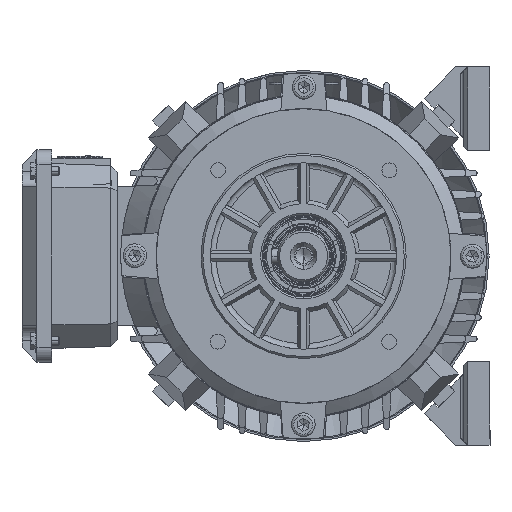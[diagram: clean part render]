
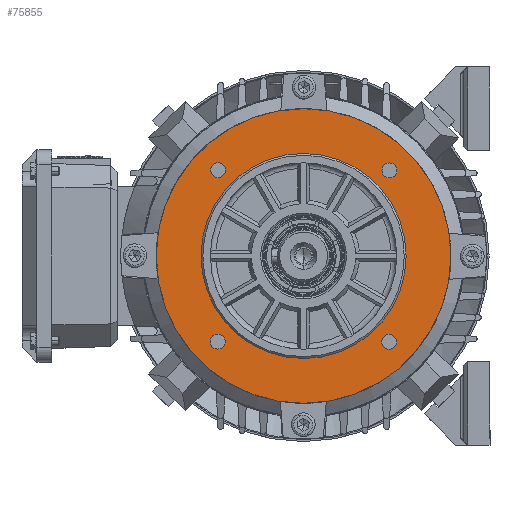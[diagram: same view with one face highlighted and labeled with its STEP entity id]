
A CAD part, left-side view. The second image highlights one B-rep face of the part: STEP entity #75855.
In plain terms, the highlighted planar face has unit normal (-1, 0, 0).
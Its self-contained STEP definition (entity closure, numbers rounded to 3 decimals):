
#880 = DIRECTION ( 'NONE',  ( 0., 1., 0.002 ) ) ;
#1295 = EDGE_CURVE ( 'NONE', #18147, #42277, #67321, .T. ) ;
#3912 = DIRECTION ( 'NONE',  ( 1., 0., 0. ) ) ;
#4324 = PLANE ( 'NONE',  #11082 ) ;
#4807 = CIRCLE ( 'NONE', #90903, 55. ) ;
#5034 = ORIENTED_EDGE ( 'NONE', *, *, #87015, .F. ) ;
#6057 = AXIS2_PLACEMENT_3D ( 'NONE', #56595, #54916, #11948 ) ;
#6374 = CARTESIAN_POINT ( 'NONE',  ( -117.133, 58.865, -45.879 ) ) ;
#7505 = DIRECTION ( 'NONE',  ( -1., 0., 0. ) ) ;
#8144 = ORIENTED_EDGE ( 'NONE', *, *, #82245, .F. ) ;
#9507 = ORIENTED_EDGE ( 'NONE', *, *, #59271, .F. ) ;
#11082 = AXIS2_PLACEMENT_3D ( 'NONE', #27842, #19259, #89777 ) ;
#11948 = DIRECTION ( 'NONE',  ( 0., -1., -0.002 ) ) ;
#12320 = CARTESIAN_POINT ( 'NONE',  ( -117.133, 54.7, 46.037 ) ) ;
#12340 = CARTESIAN_POINT ( 'NONE',  ( -117.133, -29.059, -46.037 ) ) ;
#12392 = VERTEX_POINT ( 'NONE', #56607 ) ;
#12792 = ORIENTED_EDGE ( 'NONE', *, *, #77923, .F. ) ;
#13177 = CARTESIAN_POINT ( 'NONE',  ( -117.133, -66.179, -0.142 ) ) ;
#14959 = EDGE_CURVE ( 'NONE', #74927, #45407, #30398, .T. ) ;
#17768 = AXIS2_PLACEMENT_3D ( 'NONE', #21758, #75036, #57266 ) ;
#17791 = CARTESIAN_POINT ( 'NONE',  ( -117.133, -33.224, 45.879 ) ) ;
#18147 = VERTEX_POINT ( 'NONE', #105602 ) ;
#18266 = DIRECTION ( 'NONE',  ( -1., 0., 0. ) ) ;
#19189 = CARTESIAN_POINT ( 'NONE',  ( -117.133, 62.865, -45.872 ) ) ;
#19259 = DIRECTION ( 'NONE',  ( 1., 0., 0. ) ) ;
#20378 = EDGE_LOOP ( 'NONE', ( #8144, #5034 ) ) ;
#20589 = DIRECTION ( 'NONE',  ( 0., 1., 0.002 ) ) ;
#21758 = CARTESIAN_POINT ( 'NONE',  ( -117.133, -33.224, 45.879 ) ) ;
#24467 = AXIS2_PLACEMENT_3D ( 'NONE', #54784, #27873, #88670 ) ;
#26773 = ORIENTED_EDGE ( 'NONE', *, *, #14959, .F. ) ;
#27209 = EDGE_CURVE ( 'NONE', #54023, #89253, #29840, .T. ) ;
#27842 = CARTESIAN_POINT ( 'NONE',  ( -117.133, 12.919, -55. ) ) ;
#27873 = DIRECTION ( 'NONE',  ( -1., 0., 0. ) ) ;
#28357 = DIRECTION ( 'NONE',  ( -1., 0., 0. ) ) ;
#28640 = DIRECTION ( 'NONE',  ( -1., 0., 0. ) ) ;
#29840 = CIRCLE ( 'NONE', #6057, 79. ) ;
#30398 = CIRCLE ( 'NONE', #72547, 4. ) ;
#30510 = EDGE_LOOP ( 'NONE', ( #58161, #70376 ) ) ;
#33390 = AXIS2_PLACEMENT_3D ( 'NONE', #52636, #18266, #45761 ) ;
#34012 = DIRECTION ( 'NONE',  ( 1., 0., 0. ) ) ;
#34429 = ORIENTED_EDGE ( 'NONE', *, *, #27209, .F. ) ;
#38040 = VERTEX_POINT ( 'NONE', #71126 ) ;
#38377 = EDGE_CURVE ( 'NONE', #45407, #74927, #82851, .T. ) ;
#39935 = VERTEX_POINT ( 'NONE', #19189 ) ;
#42277 = VERTEX_POINT ( 'NONE', #72916 ) ;
#43396 = CIRCLE ( 'NONE', #17768, 4. ) ;
#44126 = DIRECTION ( 'NONE',  ( 0., 1., 0.002 ) ) ;
#45407 = VERTEX_POINT ( 'NONE', #50733 ) ;
#45603 = EDGE_CURVE ( 'NONE', #81259, #12392, #95621, .T. ) ;
#45607 = FACE_BOUND ( 'NONE', #48918, .T. ) ;
#45761 = DIRECTION ( 'NONE',  ( 0., 1., 0.002 ) ) ;
#46110 = AXIS2_PLACEMENT_3D ( 'NONE', #17791, #7505, #112978 ) ;
#46592 = CARTESIAN_POINT ( 'NONE',  ( -117.133, -37.224, 45.872 ) ) ;
#48918 = EDGE_LOOP ( 'NONE', ( #96714, #26773 ) ) ;
#49981 = AXIS2_PLACEMENT_3D ( 'NONE', #6374, #93492, #44126 ) ;
#50733 = CARTESIAN_POINT ( 'NONE',  ( -117.133, 62.7, 46.052 ) ) ;
#51539 = CIRCLE ( 'NONE', #46110, 4. ) ;
#52636 = CARTESIAN_POINT ( 'NONE',  ( -117.133, 58.7, 46.044 ) ) ;
#53849 = CARTESIAN_POINT ( 'NONE',  ( -117.133, 58.7, 46.044 ) ) ;
#54023 = VERTEX_POINT ( 'NONE', #13177 ) ;
#54093 = ORIENTED_EDGE ( 'NONE', *, *, #88195, .F. ) ;
#54639 = DIRECTION ( 'NONE',  ( 0., 1., 0.002 ) ) ;
#54784 = CARTESIAN_POINT ( 'NONE',  ( -117.133, 58.865, -45.879 ) ) ;
#54916 = DIRECTION ( 'NONE',  ( 1., 0., 0. ) ) ;
#55259 = AXIS2_PLACEMENT_3D ( 'NONE', #79400, #28357, #880 ) ;
#56068 = AXIS2_PLACEMENT_3D ( 'NONE', #86764, #34012, #113119 ) ;
#56595 = CARTESIAN_POINT ( 'NONE',  ( -117.133, 12.821, 0. ) ) ;
#56607 = CARTESIAN_POINT ( 'NONE',  ( -117.133, -37.059, -46.052 ) ) ;
#57266 = DIRECTION ( 'NONE',  ( 0., 1., 0.002 ) ) ;
#57635 = EDGE_CURVE ( 'NONE', #42277, #18147, #4807, .T. ) ;
#58161 = ORIENTED_EDGE ( 'NONE', *, *, #57635, .T. ) ;
#59271 = EDGE_CURVE ( 'NONE', #89253, #54023, #83604, .T. ) ;
#59884 = EDGE_CURVE ( 'NONE', #105584, #38040, #43396, .T. ) ;
#60939 = CIRCLE ( 'NONE', #49981, 4. ) ;
#64712 = CIRCLE ( 'NONE', #24467, 4. ) ;
#65215 = CARTESIAN_POINT ( 'NONE',  ( -117.133, 12.821, 0. ) ) ;
#65397 = CARTESIAN_POINT ( 'NONE',  ( -117.133, 12.821, 0. ) ) ;
#66572 = AXIS2_PLACEMENT_3D ( 'NONE', #99373, #80480, #54639 ) ;
#67321 = CIRCLE ( 'NONE', #109757, 55. ) ;
#70376 = ORIENTED_EDGE ( 'NONE', *, *, #1295, .T. ) ;
#71126 = CARTESIAN_POINT ( 'NONE',  ( -117.133, -29.224, 45.886 ) ) ;
#71304 = CARTESIAN_POINT ( 'NONE',  ( -117.133, 91.82, 0.142 ) ) ;
#72547 = AXIS2_PLACEMENT_3D ( 'NONE', #53849, #28640, #20589 ) ;
#72916 = CARTESIAN_POINT ( 'NONE',  ( -117.133, -42.179, -0.099 ) ) ;
#73096 = FACE_BOUND ( 'NONE', #20378, .T. ) ;
#74927 = VERTEX_POINT ( 'NONE', #12320 ) ;
#75036 = DIRECTION ( 'NONE',  ( -1., 0., 0. ) ) ;
#75855 = ADVANCED_FACE ( 'NONE', ( #82281, #99496, #45607, #73096, #98366, #100057 ), #4324, .F. ) ;
#76768 = EDGE_LOOP ( 'NONE', ( #34429, #9507 ) ) ;
#77923 = EDGE_CURVE ( 'NONE', #38040, #105584, #51539, .T. ) ;
#77963 = ORIENTED_EDGE ( 'NONE', *, *, #59884, .F. ) ;
#79400 = CARTESIAN_POINT ( 'NONE',  ( -117.133, -33.059, -46.044 ) ) ;
#80480 = DIRECTION ( 'NONE',  ( -1., 0., 0. ) ) ;
#81259 = VERTEX_POINT ( 'NONE', #12340 ) ;
#82245 = EDGE_CURVE ( 'NONE', #39935, #88076, #64712, .T. ) ;
#82281 = FACE_OUTER_BOUND ( 'NONE', #76768, .T. ) ;
#82851 = CIRCLE ( 'NONE', #33390, 4. ) ;
#83464 = EDGE_LOOP ( 'NONE', ( #12792, #77963 ) ) ;
#83604 = CIRCLE ( 'NONE', #56068, 79. ) ;
#86764 = CARTESIAN_POINT ( 'NONE',  ( -117.133, 12.821, 0. ) ) ;
#87015 = EDGE_CURVE ( 'NONE', #88076, #39935, #60939, .T. ) ;
#88076 = VERTEX_POINT ( 'NONE', #111471 ) ;
#88195 = EDGE_CURVE ( 'NONE', #12392, #81259, #110567, .T. ) ;
#88670 = DIRECTION ( 'NONE',  ( 0., 1., 0.002 ) ) ;
#89253 = VERTEX_POINT ( 'NONE', #71304 ) ;
#89777 = DIRECTION ( 'NONE',  ( 0., -1., -0.002 ) ) ;
#90903 = AXIS2_PLACEMENT_3D ( 'NONE', #65397, #99846, #100400 ) ;
#93492 = DIRECTION ( 'NONE',  ( -1., 0., 0. ) ) ;
#95621 = CIRCLE ( 'NONE', #55259, 4. ) ;
#96714 = ORIENTED_EDGE ( 'NONE', *, *, #38377, .F. ) ;
#98366 = FACE_BOUND ( 'NONE', #104592, .T. ) ;
#99373 = CARTESIAN_POINT ( 'NONE',  ( -117.133, -33.059, -46.044 ) ) ;
#99496 = FACE_BOUND ( 'NONE', #83464, .T. ) ;
#99846 = DIRECTION ( 'NONE',  ( 1., 0., 0. ) ) ;
#100057 = FACE_BOUND ( 'NONE', #30510, .T. ) ;
#100214 = DIRECTION ( 'NONE',  ( 0., -1., -0.002 ) ) ;
#100400 = DIRECTION ( 'NONE',  ( 0., -1., -0.002 ) ) ;
#101844 = ORIENTED_EDGE ( 'NONE', *, *, #45603, .F. ) ;
#104592 = EDGE_LOOP ( 'NONE', ( #101844, #54093 ) ) ;
#105584 = VERTEX_POINT ( 'NONE', #46592 ) ;
#105602 = CARTESIAN_POINT ( 'NONE',  ( -117.133, 67.82, 0.099 ) ) ;
#109757 = AXIS2_PLACEMENT_3D ( 'NONE', #65215, #3912, #100214 ) ;
#110567 = CIRCLE ( 'NONE', #66572, 4. ) ;
#111471 = CARTESIAN_POINT ( 'NONE',  ( -117.133, 54.865, -45.886 ) ) ;
#112978 = DIRECTION ( 'NONE',  ( 0., 1., 0.002 ) ) ;
#113119 = DIRECTION ( 'NONE',  ( 0., -1., -0.002 ) ) ;
